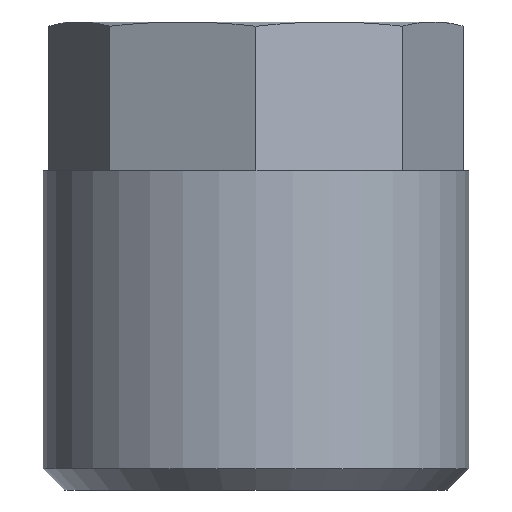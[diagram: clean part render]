
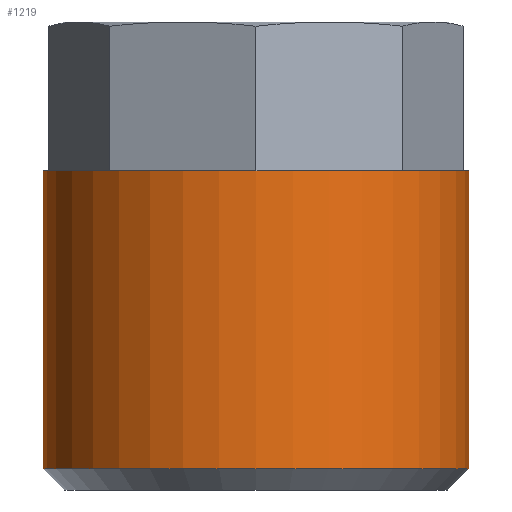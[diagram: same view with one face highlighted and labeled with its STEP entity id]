
A CAD part, front view. The second image highlights one B-rep face of the part: STEP entity #1219.
In plain terms, the highlighted cylindrical face has radius 5 mm (diameter 10 mm), a full revolution.
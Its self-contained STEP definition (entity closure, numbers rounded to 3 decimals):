
#586=CYLINDRICAL_SURFACE('',#1174,5.);
#679=ORIENTED_EDGE('',*,*,#786,.F.);
#680=ORIENTED_EDGE('',*,*,#787,.T.);
#702=CIRCLE('',#1173,5.);
#703=CIRCLE('',#1175,5.);
#736=VERTEX_POINT('',#1105);
#737=VERTEX_POINT('',#1108);
#786=EDGE_CURVE('',#736,#736,#702,.T.);
#787=EDGE_CURVE('',#737,#737,#703,.T.);
#819=EDGE_LOOP('',(#679));
#820=EDGE_LOOP('',(#680));
#857=FACE_BOUND('',#819,.T.);
#858=FACE_BOUND('',#820,.T.);
#985=DIRECTION('',(0.,1.,0.));
#986=DIRECTION('',(0.,0.,-5.));
#987=DIRECTION('',(0.,1.,0.));
#988=DIRECTION('',(1.,0.,0.));
#989=DIRECTION('',(0.,1.,0.));
#990=DIRECTION('',(0.,0.,5.));
#1105=CARTESIAN_POINT('',(0.,7.5,-5.));
#1106=CARTESIAN_POINT('',(0.,7.5,0.));
#1107=CARTESIAN_POINT('',(0.,0.5,0.));
#1108=CARTESIAN_POINT('',(0.,0.5,5.));
#1109=CARTESIAN_POINT('',(0.,0.5,0.));
#1173=AXIS2_PLACEMENT_3D('',#1106,#985,#986);
#1174=AXIS2_PLACEMENT_3D('',#1107,#987,#988);
#1175=AXIS2_PLACEMENT_3D('',#1109,#989,#990);
#1219=ADVANCED_FACE('',(#857,#858),#586,.T.);
